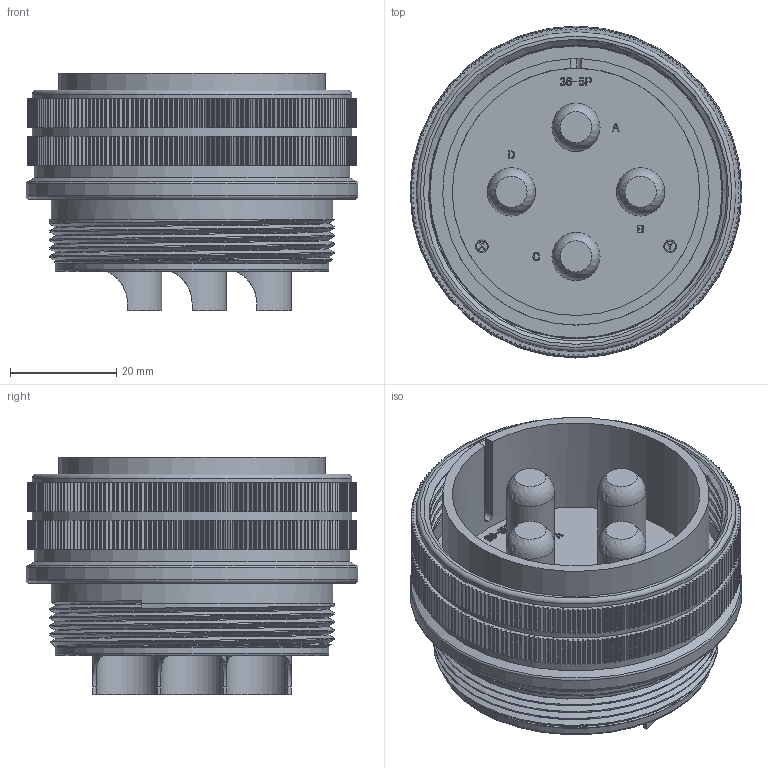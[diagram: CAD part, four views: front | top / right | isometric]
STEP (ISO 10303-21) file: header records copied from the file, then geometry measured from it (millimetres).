
FILE_DESCRIPTION (( 'STEP AP203' ), '1' );
FILE_NAME ('DMS3106A36-5P(D190).STEP', '2021-04-07T00:53:32', ( '' ), ( '' ), 'SwSTEP 2.0', 'SolidWorks 2018', '' );
FILE_SCHEMA (( 'CONFIG_CONTROL_DESIGN' ));
Length unit declared in the file: millimetre
Products named in the file (1): DMS3106A36-5P(D190)
Bounding box: 62.63 x 62.63 x 44.86 mm (x, y, z)
Volume: 52082.4 mm3; surface area: 33257.1 mm2
Topology: 1 solids, 1 shells, 2913 faces, 8567 edges, 5706 vertices
Faces by surface type: cylinder 1715, plane 1021, bspline 159, torus 11, sphere 4, cone 3
Full cylindrical faces by diameter (mm): 2 x2, 2.4 x2, 9.07 x4, 11.79 x4, 13.03 x4, 43 x1, 46.69 x1, 47.96 x1, 51.6 x1, 53.19 x1, 53.91 x1, 55.09 x1, 55.44 x1, 56.18 x1, 59.52 x1, 60.35 x2, 62.63 x1
Entity records: 104785 total; most frequent: CARTESIAN_POINT 25241, DIRECTION 17084, ORIENTED_EDGE 16990, EDGE_CURVE 8495, AXIS2_PLACEMENT_3D 6183, VERTEX_POINT 5681, LINE 4718, VECTOR 4718
